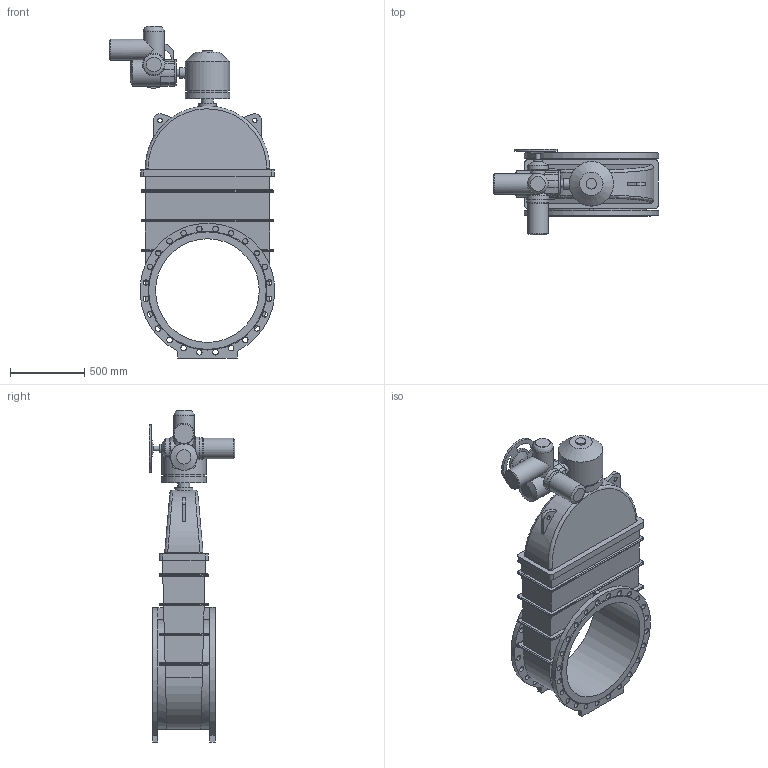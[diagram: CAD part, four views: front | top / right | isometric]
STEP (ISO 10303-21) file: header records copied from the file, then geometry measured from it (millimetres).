
FILE_DESCRIPTION(('STEP AP203'), '1');
FILE_NAME('Çàäâèæêà 47GV.Z DN700 PN10_PN16 + ðåäóêòîð+ÌÒ903.À30', '', ('UNSPECIFIED'), ('UNSPECIFIED'), 'ASCON STEP Converter 1.6', 'ASCON Math Kernel', '');
FILE_SCHEMA(('CONFIG_CONTROL_DESIGN'));
Length unit declared in the file: millimetre
Bounding box: 1115.69 x 578 x 2242 mm (x, y, z)
Volume: 287506939.1 mm3; surface area: 6804541.8 mm2
Topology: 1 solids, 1 shells, 385 faces, 923 edges, 588 vertices
Faces by surface type: cylinder 183, plane 155, bspline 34, cone 12, torus 1
Full cylindrical faces by diameter (mm): 14 x12, 18 x12, 30 x2, 32 x1, 37 x48, 50 x1, 60 x1, 70 x2, 80 x1, 100 x1, 120 x1, 140 x4, 147 x1, 151 x1, 175 x1, 280 x1, 300 x2, 700 x1
Entity records: 18601 total; most frequent: CARTESIAN_POINT 6938, DIRECTION 1699, ORIENTED_EDGE 1636, EDGE_CURVE 818, AXIS2_PLACEMENT_3D 672, EDGE_LOOP 646, VERTEX_POINT 588, FACE_BOUND 441
